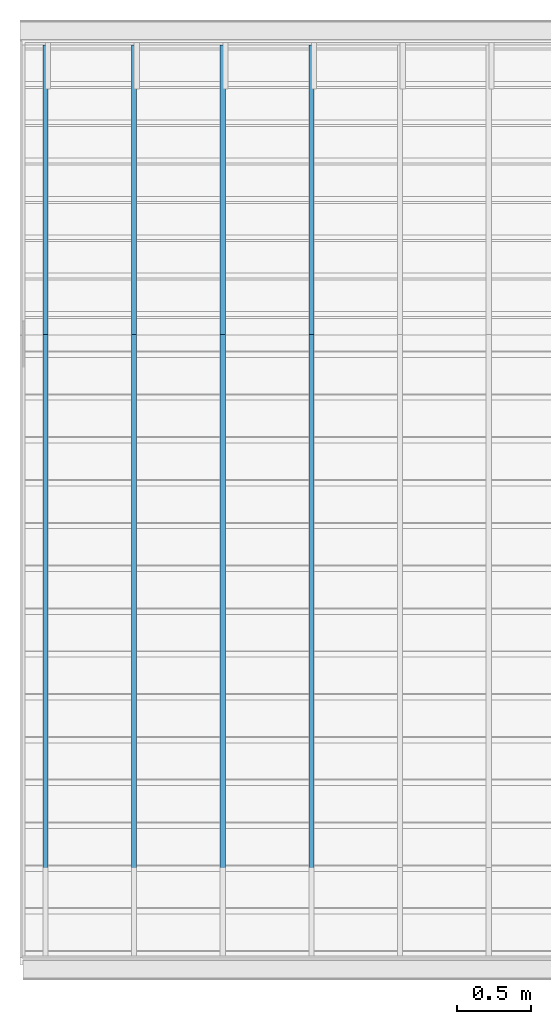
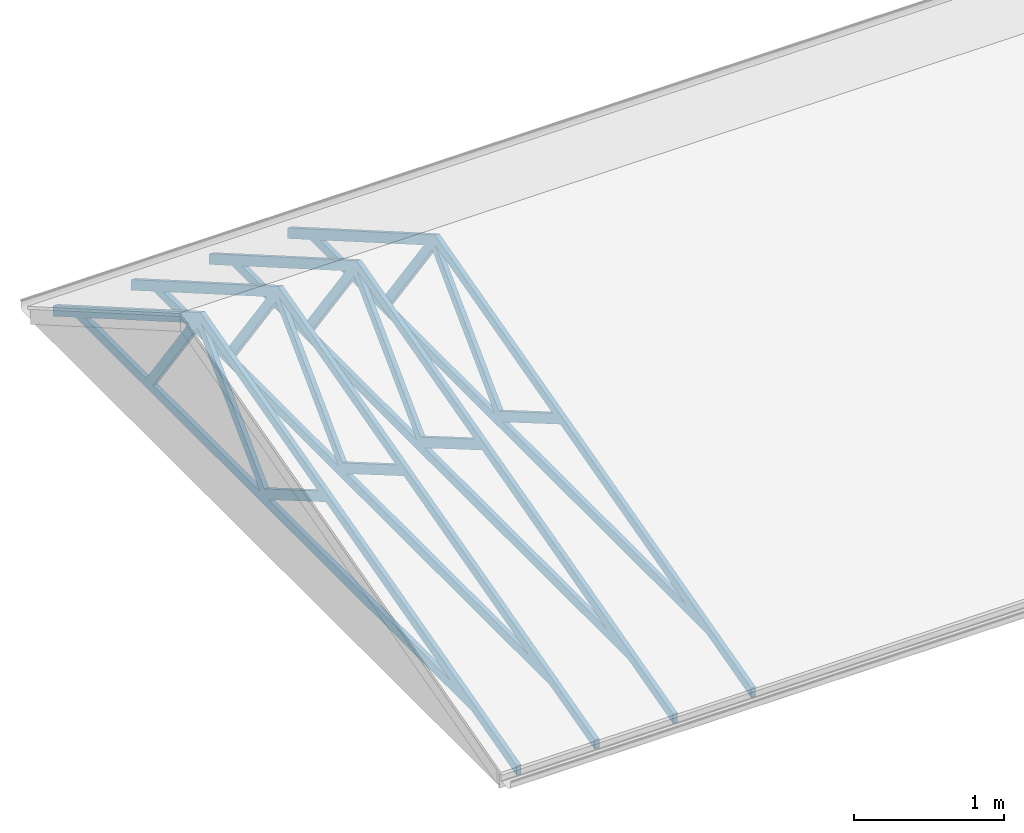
# One storey, part 2 of 12: 4 slabs.
"""IFC2X3 building model written with IfcOpenShell, lengths in millimetres."""

from ifc_helpers import new_model, entity, si_unit, converted_unit, money_unit, direction, frame, origin_with_axes, place, context, subcontext, project, spatial, faceted_brep, material, type_object, element, save


model = new_model("IFC2X3")

# Units and contexts
model_context = context("Model", 3, precision=1e-05, world=origin_with_axes(), true_north=direction((0.0, 1.0)))
body_context = subcontext(model_context, "Body", "Model", "MODEL_VIEW")
ifc_project = project(units=[si_unit("LENGTHUNIT", "METRE", prefix="MILLI"), si_unit("AREAUNIT", "SQUARE_METRE"), si_unit("VOLUMEUNIT", "CUBIC_METRE"), converted_unit("PLANEANGLEUNIT", "DEGREE", entity("IfcPlaneAngleMeasure", 0.0174532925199), si_unit("PLANEANGLEUNIT", "RADIAN"), dimensions=[0, 0, 0, 0, 0, 0, 0]), si_unit("SOLIDANGLEUNIT", "STERADIAN"), money_unit("AUD"), si_unit("TIMEUNIT", "SECOND"), si_unit("MASSUNIT", "GRAM"), si_unit("THERMODYNAMICTEMPERATUREUNIT", "DEGREE_CELSIUS"), si_unit("LUMINOUSINTENSITYUNIT", "LUMEN")], contexts=[model_context])

# Site, building, storey
site_placement = place(None, origin_with_axes())
site = spatial("IfcSite", under=ifc_project, at=site_placement, Name="Lot 1. East Hills", CompositionType="ELEMENT")
building_placement = place(site_placement, origin_with_axes())
building = spatial("IfcBuilding", under=site, at=building_placement, Name="Proposed Units 7 & 8", CompositionType="ELEMENT")
storey_placement = place(building_placement, frame((0.0, 0.0, 8395.0), z_axis=(0.0, 0.0, 1.0), x_axis=(1.0, 0.0, 0.0)))
storey = spatial("IfcBuildingStorey", under=building, at=storey_placement, Name="Roof", CompositionType="ELEMENT", Elevation=8395.0)

# Slabs
ifc_material = material(Name="50 %")
slab_type = type_object("IfcSlabType", Name="Roof Trust large", PredefinedType="NOTDEFINED")
slab_1_placement = place(storey_placement, frame((1955.0, -3.11548540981, 0.0), z_axis=(0.0, 0.0, 1.0), x_axis=(-1.0, 0.0, 0.0)))
element("IfcSlab", 1, at=slab_1_placement, inside=storey, type_object=slab_type, material=ifc_material, Name="TRUST_24 - Roof Trust large - object -", PredefinedType="ROOF", context=body_context, shape_type="Brep", body=[
    faceted_brep([(0.0, 600.020035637, -160.773638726), (0.0, 600.020035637, -160.673638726), (35.0, 600.020035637, -160.673638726), (35.0, 600.020035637, -160.773638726), (0.0, 599.923443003, -160.747757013), (0.0, 0.0966282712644, -0.0259204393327), (0.0, 3.56373446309e-05, -3.87262417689e-05), (0.0, -0.0999643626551, -3.87262417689e-05), (0.0, -5264.89996436, -3.87262399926e-05), (0.0, -5264.99996436, -3.87262399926e-05), (0.0, -5265.08656691, -0.050038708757), (0.0, -5564.91336181, -173.155038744), (0.0, -5564.99996436, -173.205038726), (0.0, -5564.99996436, -173.105038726), (0.0, -5564.99996436, -86.7025387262), (0.0, -5564.99996436, -86.6025387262), (0.0, -5564.91336181, -86.552538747), (0.0, -3606.74656692, 1043.99496129), (0.0, -3606.65996436, 1044.04496127), (0.0, -3606.56337176, 1044.01907945), (0.0, 599.923443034, -83.102056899), (0.0, 600.020035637, -83.1279387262), (0.0, 600.020035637, -83.2279387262), (0.0, -279.899964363, 74.9999612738), (0.0, -279.996556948, 75.0258431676), (0.0, -1937.88337178, 519.25507938), (0.0, -1937.97996436, 519.280961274), (0.0, -1938.06635104, 519.230589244), (0.0, -2699.82357768, 75.0503333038), (0.0, -2699.90996436, 74.9999612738), (0.0, -2699.80996436, 74.9999612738), (0.0, -279.999964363, 74.9999612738), (0.0, -2039.93996436, 546.601961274), (0.0, -2040.03655692, 546.627843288), (0.0, -3595.96337181, 963.539079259), (0.0, -3596.05996436, 963.564961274), (0.0, -3595.98895391, 963.494551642), (0.0, -2755.09097481, 129.711370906), (0.0, -2755.01996436, 129.640961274), (0.0, -2754.93357759, 129.691333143), (0.0, -2040.02635114, 546.551589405), (0.0, -2806.42996436, 74.9999612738), (0.0, -2806.50097476, 75.0703709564), (0.0, -3640.32895396, 901.844551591), (0.0, -3640.39996436, 901.914961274), (0.0, -3640.45835547, 901.833779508), (0.0, -4235.11157326, 75.0811430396), (0.0, -4235.16996436, 74.9999612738), (0.0, -4235.06996436, 74.9999612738), (0.0, -2806.52996436, 74.9999612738), (0.0, -3751.98996436, 873.534961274), (0.0, -3752.07656695, 873.48496135), (0.0, -5135.00936178, 75.0499611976), (0.0, -5135.09596436, 74.9999612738), (0.0, -5134.99596436, 74.9999612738), (0.0, -4326.44996436, 74.9999612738), (0.0, -4326.34996436, 74.9999612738), (0.0, -4326.29157308, 75.0811429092), (0.0, -3752.04835565, 873.453779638), (35.0, 600.020035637, -83.2279387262), (35.0, 600.020035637, -83.1279387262), (35.0, 599.923443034, -83.102056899), (35.0, -3606.56337176, 1044.01907945), (35.0, -3606.65996436, 1044.04496127), (35.0, -3606.74656692, 1043.99496129), (35.0, -5564.91336181, -86.552538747), (35.0, -5564.99996436, -86.6025387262), (35.0, -5564.99996436, -86.7025387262), (35.0, -5564.99996436, -173.105038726), (35.0, -5564.99996436, -173.205038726), (35.0, -5564.91336181, -173.155038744), (35.0, -5265.08656691, -0.050038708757), (35.0, -5264.99996436, -3.87262399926e-05), (35.0, -5264.89996436, -3.87262399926e-05), (35.0, -0.0999643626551, -3.87262417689e-05), (35.0, 3.56373446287e-05, -3.87262417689e-05), (35.0, 0.0966282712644, -0.0259204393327), (35.0, 599.923443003, -160.747757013), (35.0, -279.899964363, 74.9999612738), (35.0, -279.999964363, 74.9999612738), (35.0, -2699.80996436, 74.9999612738), (35.0, -2699.90996436, 74.9999612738), (35.0, -2699.82357768, 75.0503333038), (35.0, -1938.06635104, 519.230589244), (35.0, -1937.97996436, 519.280961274), (35.0, -1937.88337178, 519.25507938), (35.0, -279.996556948, 75.0258431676), (35.0, -2039.93996436, 546.601961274), (35.0, -2040.02635114, 546.551589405), (35.0, -2754.93357759, 129.691333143), (35.0, -2755.01996436, 129.640961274), (35.0, -2755.09097481, 129.711370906), (35.0, -3595.98895391, 963.494551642), (35.0, -3596.05996436, 963.564961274), (35.0, -3595.96337181, 963.539079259), (35.0, -2040.03655692, 546.627843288), (35.0, -2806.42996436, 74.9999612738), (35.0, -2806.52996436, 74.9999612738), (35.0, -4235.06996436, 74.9999612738), (35.0, -4235.16996436, 74.9999612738), (35.0, -4235.11157326, 75.0811430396), (35.0, -3640.45835547, 901.833779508), (35.0, -3640.39996436, 901.914961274), (35.0, -3640.32895396, 901.844551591), (35.0, -2806.50097476, 75.0703709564), (35.0, -3751.98996436, 873.534961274), (35.0, -3752.04835565, 873.453779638), (35.0, -4326.29157308, 75.0811429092), (35.0, -4326.34996436, 74.9999612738), (35.0, -4326.44996436, 74.9999612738), (35.0, -5134.99596436, 74.9999612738), (35.0, -5135.09596436, 74.9999612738), (35.0, -5135.00936178, 75.0499611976), (35.0, -3752.07656695, 873.48496135)], [[[0, 1, 2, 3]], [[0, 4, 5, 6, 7, 8, 9, 10, 11, 12, 13, 14, 15, 16, 17, 18, 19, 20, 21, 22, 1], [23, 24, 25, 26, 27, 28, 29, 30, 31], [32, 33, 34, 35, 36, 37, 38, 39, 40], [41, 42, 43, 44, 45, 46, 47, 48, 49], [50, 51, 52, 53, 54, 55, 56, 57, 58]], [[1, 22, 59, 2]], [[3, 2, 59, 60, 61, 62, 63, 64, 65, 66, 67, 68, 69, 70, 71, 72, 73, 74, 75, 76, 77], [78, 79, 80, 81, 82, 83, 84, 85, 86], [87, 88, 89, 90, 91, 92, 93, 94, 95], [96, 97, 98, 99, 100, 101, 102, 103, 104], [105, 106, 107, 108, 109, 110, 111, 112, 113]], [[4, 0, 3, 77]], [[5, 4, 77, 76]], [[6, 5, 76, 75]], [[7, 6, 75, 74]], [[8, 7, 74, 73]], [[9, 8, 73, 72]], [[10, 9, 72, 71]], [[11, 10, 71, 70]], [[12, 11, 70, 69]], [[13, 12, 69, 68]], [[14, 13, 68, 67]], [[15, 14, 67, 66]], [[16, 15, 66, 65]], [[17, 16, 65, 64]], [[18, 17, 64, 63]], [[19, 18, 63, 62]], [[20, 19, 62, 61]], [[21, 20, 61, 60]], [[22, 21, 60, 59]], [[24, 23, 78, 86]], [[25, 24, 86, 85]], [[26, 25, 85, 84]], [[27, 26, 84, 83]], [[28, 27, 83, 82]], [[29, 28, 82, 81]], [[30, 29, 81, 80]], [[31, 30, 80, 79]], [[23, 31, 79, 78]], [[33, 32, 87, 95]], [[34, 33, 95, 94]], [[35, 34, 94, 93]], [[36, 35, 93, 92]], [[37, 36, 92, 91]], [[38, 37, 91, 90]], [[39, 38, 90, 89]], [[40, 39, 89, 88]], [[32, 40, 88, 87]], [[42, 41, 96, 104]], [[43, 42, 104, 103]], [[44, 43, 103, 102]], [[45, 44, 102, 101]], [[46, 45, 101, 100]], [[47, 46, 100, 99]], [[48, 47, 99, 98]], [[49, 48, 98, 97]], [[41, 49, 97, 96]], [[51, 50, 105, 113]], [[52, 51, 113, 112]], [[53, 52, 112, 111]], [[54, 53, 111, 110]], [[55, 54, 110, 109]], [[56, 55, 109, 108]], [[57, 56, 108, 107]], [[58, 57, 107, 106]], [[50, 58, 106, 105]]]),
])
slab_2_placement = place(storey_placement, frame((1355.0, -3.11548540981, 0.0), z_axis=(0.0, 0.0, 1.0), x_axis=(-1.0, 0.0, 0.0)))
element("IfcSlab", 2, at=slab_2_placement, inside=storey, type_object=slab_type, material=ifc_material, Name="TRUST_25 - Roof Trust large - object -", PredefinedType="ROOF", context=body_context, shape_type="Brep", body=[
    faceted_brep([(0.0, 600.020035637, -160.773638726), (0.0, 600.020035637, -160.673638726), (35.0, 600.020035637, -160.673638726), (35.0, 600.020035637, -160.773638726), (0.0, 599.923443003, -160.747757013), (0.0, 0.0966282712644, -0.0259204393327), (0.0, 3.56373446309e-05, -3.87262417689e-05), (0.0, -0.0999643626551, -3.87262417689e-05), (0.0, -5264.89996436, -3.87262399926e-05), (0.0, -5264.99996436, -3.87262399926e-05), (0.0, -5265.08656691, -0.050038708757), (0.0, -5564.91336181, -173.155038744), (0.0, -5564.99996436, -173.205038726), (0.0, -5564.99996436, -173.105038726), (0.0, -5564.99996436, -86.7025387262), (0.0, -5564.99996436, -86.6025387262), (0.0, -5564.91336181, -86.552538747), (0.0, -3606.74656692, 1043.99496129), (0.0, -3606.65996436, 1044.04496127), (0.0, -3606.56337176, 1044.01907945), (0.0, 599.923443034, -83.102056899), (0.0, 600.020035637, -83.1279387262), (0.0, 600.020035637, -83.2279387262), (0.0, -279.899964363, 74.9999612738), (0.0, -279.996556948, 75.0258431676), (0.0, -1937.88337178, 519.25507938), (0.0, -1937.97996436, 519.280961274), (0.0, -1938.06635104, 519.230589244), (0.0, -2699.82357768, 75.0503333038), (0.0, -2699.90996436, 74.9999612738), (0.0, -2699.80996436, 74.9999612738), (0.0, -279.999964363, 74.9999612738), (0.0, -2039.93996436, 546.601961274), (0.0, -2040.03655692, 546.627843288), (0.0, -3595.96337181, 963.539079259), (0.0, -3596.05996436, 963.564961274), (0.0, -3595.98895391, 963.494551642), (0.0, -2755.09097481, 129.711370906), (0.0, -2755.01996436, 129.640961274), (0.0, -2754.93357759, 129.691333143), (0.0, -2040.02635114, 546.551589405), (0.0, -2806.42996436, 74.9999612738), (0.0, -2806.50097476, 75.0703709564), (0.0, -3640.32895396, 901.844551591), (0.0, -3640.39996436, 901.914961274), (0.0, -3640.45835547, 901.833779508), (0.0, -4235.11157326, 75.0811430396), (0.0, -4235.16996436, 74.9999612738), (0.0, -4235.06996436, 74.9999612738), (0.0, -2806.52996436, 74.9999612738), (0.0, -3751.98996436, 873.534961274), (0.0, -3752.07656695, 873.48496135), (0.0, -5135.00936178, 75.0499611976), (0.0, -5135.09596436, 74.9999612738), (0.0, -5134.99596436, 74.9999612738), (0.0, -4326.44996436, 74.9999612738), (0.0, -4326.34996436, 74.9999612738), (0.0, -4326.29157308, 75.0811429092), (0.0, -3752.04835565, 873.453779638), (35.0, 600.020035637, -83.2279387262), (35.0, 600.020035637, -83.1279387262), (35.0, 599.923443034, -83.102056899), (35.0, -3606.56337176, 1044.01907945), (35.0, -3606.65996436, 1044.04496127), (35.0, -3606.74656692, 1043.99496129), (35.0, -5564.91336181, -86.552538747), (35.0, -5564.99996436, -86.6025387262), (35.0, -5564.99996436, -86.7025387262), (35.0, -5564.99996436, -173.105038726), (35.0, -5564.99996436, -173.205038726), (35.0, -5564.91336181, -173.155038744), (35.0, -5265.08656691, -0.050038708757), (35.0, -5264.99996436, -3.87262399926e-05), (35.0, -5264.89996436, -3.87262399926e-05), (35.0, -0.0999643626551, -3.87262417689e-05), (35.0, 3.56373446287e-05, -3.87262417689e-05), (35.0, 0.0966282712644, -0.0259204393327), (35.0, 599.923443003, -160.747757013), (35.0, -279.899964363, 74.9999612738), (35.0, -279.999964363, 74.9999612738), (35.0, -2699.80996436, 74.9999612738), (35.0, -2699.90996436, 74.9999612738), (35.0, -2699.82357768, 75.0503333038), (35.0, -1938.06635104, 519.230589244), (35.0, -1937.97996436, 519.280961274), (35.0, -1937.88337178, 519.25507938), (35.0, -279.996556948, 75.0258431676), (35.0, -2039.93996436, 546.601961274), (35.0, -2040.02635114, 546.551589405), (35.0, -2754.93357759, 129.691333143), (35.0, -2755.01996436, 129.640961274), (35.0, -2755.09097481, 129.711370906), (35.0, -3595.98895391, 963.494551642), (35.0, -3596.05996436, 963.564961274), (35.0, -3595.96337181, 963.539079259), (35.0, -2040.03655692, 546.627843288), (35.0, -2806.42996436, 74.9999612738), (35.0, -2806.52996436, 74.9999612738), (35.0, -4235.06996436, 74.9999612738), (35.0, -4235.16996436, 74.9999612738), (35.0, -4235.11157326, 75.0811430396), (35.0, -3640.45835547, 901.833779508), (35.0, -3640.39996436, 901.914961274), (35.0, -3640.32895396, 901.844551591), (35.0, -2806.50097476, 75.0703709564), (35.0, -3751.98996436, 873.534961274), (35.0, -3752.04835565, 873.453779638), (35.0, -4326.29157308, 75.0811429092), (35.0, -4326.34996436, 74.9999612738), (35.0, -4326.44996436, 74.9999612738), (35.0, -5134.99596436, 74.9999612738), (35.0, -5135.09596436, 74.9999612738), (35.0, -5135.00936178, 75.0499611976), (35.0, -3752.07656695, 873.48496135)], [[[0, 1, 2, 3]], [[0, 4, 5, 6, 7, 8, 9, 10, 11, 12, 13, 14, 15, 16, 17, 18, 19, 20, 21, 22, 1], [23, 24, 25, 26, 27, 28, 29, 30, 31], [32, 33, 34, 35, 36, 37, 38, 39, 40], [41, 42, 43, 44, 45, 46, 47, 48, 49], [50, 51, 52, 53, 54, 55, 56, 57, 58]], [[1, 22, 59, 2]], [[3, 2, 59, 60, 61, 62, 63, 64, 65, 66, 67, 68, 69, 70, 71, 72, 73, 74, 75, 76, 77], [78, 79, 80, 81, 82, 83, 84, 85, 86], [87, 88, 89, 90, 91, 92, 93, 94, 95], [96, 97, 98, 99, 100, 101, 102, 103, 104], [105, 106, 107, 108, 109, 110, 111, 112, 113]], [[4, 0, 3, 77]], [[5, 4, 77, 76]], [[6, 5, 76, 75]], [[7, 6, 75, 74]], [[8, 7, 74, 73]], [[9, 8, 73, 72]], [[10, 9, 72, 71]], [[11, 10, 71, 70]], [[12, 11, 70, 69]], [[13, 12, 69, 68]], [[14, 13, 68, 67]], [[15, 14, 67, 66]], [[16, 15, 66, 65]], [[17, 16, 65, 64]], [[18, 17, 64, 63]], [[19, 18, 63, 62]], [[20, 19, 62, 61]], [[21, 20, 61, 60]], [[22, 21, 60, 59]], [[24, 23, 78, 86]], [[25, 24, 86, 85]], [[26, 25, 85, 84]], [[27, 26, 84, 83]], [[28, 27, 83, 82]], [[29, 28, 82, 81]], [[30, 29, 81, 80]], [[31, 30, 80, 79]], [[23, 31, 79, 78]], [[33, 32, 87, 95]], [[34, 33, 95, 94]], [[35, 34, 94, 93]], [[36, 35, 93, 92]], [[37, 36, 92, 91]], [[38, 37, 91, 90]], [[39, 38, 90, 89]], [[40, 39, 89, 88]], [[32, 40, 88, 87]], [[42, 41, 96, 104]], [[43, 42, 104, 103]], [[44, 43, 103, 102]], [[45, 44, 102, 101]], [[46, 45, 101, 100]], [[47, 46, 100, 99]], [[48, 47, 99, 98]], [[49, 48, 98, 97]], [[41, 49, 97, 96]], [[51, 50, 105, 113]], [[52, 51, 113, 112]], [[53, 52, 112, 111]], [[54, 53, 111, 110]], [[55, 54, 110, 109]], [[56, 55, 109, 108]], [[57, 56, 108, 107]], [[58, 57, 107, 106]], [[50, 58, 106, 105]]]),
])
slab_3_placement = place(storey_placement, frame((155.0, -3.11548540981, 0.0), z_axis=(0.0, 0.0, 1.0), x_axis=(-1.0, 0.0, 0.0)))
element("IfcSlab", 3, at=slab_3_placement, inside=storey, type_object=slab_type, material=ifc_material, Name="TRUST_26 - Roof Trust large - object -", PredefinedType="ROOF", context=body_context, shape_type="Brep", body=[
    faceted_brep([(0.0, 600.020035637, -160.773638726), (0.0, 600.020035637, -160.673638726), (35.0, 600.020035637, -160.673638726), (35.0, 600.020035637, -160.773638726), (0.0, 599.923443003, -160.747757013), (0.0, 0.0966282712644, -0.0259204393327), (0.0, 3.56373446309e-05, -3.87262417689e-05), (0.0, -0.0999643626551, -3.87262417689e-05), (0.0, -5264.89996436, -3.87262399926e-05), (0.0, -5264.99996436, -3.87262399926e-05), (0.0, -5265.08656691, -0.050038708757), (0.0, -5564.91336181, -173.155038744), (0.0, -5564.99996436, -173.205038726), (0.0, -5564.99996436, -173.105038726), (0.0, -5564.99996436, -86.7025387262), (0.0, -5564.99996436, -86.6025387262), (0.0, -5564.91336181, -86.552538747), (0.0, -3606.74656692, 1043.99496129), (0.0, -3606.65996436, 1044.04496127), (0.0, -3606.56337176, 1044.01907945), (0.0, 599.923443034, -83.102056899), (0.0, 600.020035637, -83.1279387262), (0.0, 600.020035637, -83.2279387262), (0.0, -279.899964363, 74.9999612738), (0.0, -279.996556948, 75.0258431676), (0.0, -1937.88337178, 519.25507938), (0.0, -1937.97996436, 519.280961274), (0.0, -1938.06635104, 519.230589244), (0.0, -2699.82357768, 75.0503333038), (0.0, -2699.90996436, 74.9999612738), (0.0, -2699.80996436, 74.9999612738), (0.0, -279.999964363, 74.9999612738), (0.0, -2039.93996436, 546.601961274), (0.0, -2040.03655692, 546.627843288), (0.0, -3595.96337181, 963.539079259), (0.0, -3596.05996436, 963.564961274), (0.0, -3595.98895391, 963.494551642), (0.0, -2755.09097481, 129.711370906), (0.0, -2755.01996436, 129.640961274), (0.0, -2754.93357759, 129.691333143), (0.0, -2040.02635114, 546.551589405), (0.0, -2806.42996436, 74.9999612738), (0.0, -2806.50097476, 75.0703709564), (0.0, -3640.32895396, 901.844551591), (0.0, -3640.39996436, 901.914961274), (0.0, -3640.45835547, 901.833779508), (0.0, -4235.11157326, 75.0811430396), (0.0, -4235.16996436, 74.9999612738), (0.0, -4235.06996436, 74.9999612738), (0.0, -2806.52996436, 74.9999612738), (0.0, -3751.98996436, 873.534961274), (0.0, -3752.07656695, 873.48496135), (0.0, -5135.00936178, 75.0499611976), (0.0, -5135.09596436, 74.9999612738), (0.0, -5134.99596436, 74.9999612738), (0.0, -4326.44996436, 74.9999612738), (0.0, -4326.34996436, 74.9999612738), (0.0, -4326.29157308, 75.0811429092), (0.0, -3752.04835565, 873.453779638), (35.0, 600.020035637, -83.2279387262), (35.0, 600.020035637, -83.1279387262), (35.0, 599.923443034, -83.102056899), (35.0, -3606.56337176, 1044.01907945), (35.0, -3606.65996436, 1044.04496127), (35.0, -3606.74656692, 1043.99496129), (35.0, -5564.91336181, -86.552538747), (35.0, -5564.99996436, -86.6025387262), (35.0, -5564.99996436, -86.7025387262), (35.0, -5564.99996436, -173.105038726), (35.0, -5564.99996436, -173.205038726), (35.0, -5564.91336181, -173.155038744), (35.0, -5265.08656691, -0.050038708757), (35.0, -5264.99996436, -3.87262399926e-05), (35.0, -5264.89996436, -3.87262399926e-05), (35.0, -0.0999643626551, -3.87262417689e-05), (35.0, 3.56373446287e-05, -3.87262417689e-05), (35.0, 0.0966282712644, -0.0259204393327), (35.0, 599.923443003, -160.747757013), (35.0, -279.899964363, 74.9999612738), (35.0, -279.999964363, 74.9999612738), (35.0, -2699.80996436, 74.9999612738), (35.0, -2699.90996436, 74.9999612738), (35.0, -2699.82357768, 75.0503333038), (35.0, -1938.06635104, 519.230589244), (35.0, -1937.97996436, 519.280961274), (35.0, -1937.88337178, 519.25507938), (35.0, -279.996556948, 75.0258431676), (35.0, -2039.93996436, 546.601961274), (35.0, -2040.02635114, 546.551589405), (35.0, -2754.93357759, 129.691333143), (35.0, -2755.01996436, 129.640961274), (35.0, -2755.09097481, 129.711370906), (35.0, -3595.98895391, 963.494551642), (35.0, -3596.05996436, 963.564961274), (35.0, -3595.96337181, 963.539079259), (35.0, -2040.03655692, 546.627843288), (35.0, -2806.42996436, 74.9999612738), (35.0, -2806.52996436, 74.9999612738), (35.0, -4235.06996436, 74.9999612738), (35.0, -4235.16996436, 74.9999612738), (35.0, -4235.11157326, 75.0811430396), (35.0, -3640.45835547, 901.833779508), (35.0, -3640.39996436, 901.914961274), (35.0, -3640.32895396, 901.844551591), (35.0, -2806.50097476, 75.0703709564), (35.0, -3751.98996436, 873.534961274), (35.0, -3752.04835565, 873.453779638), (35.0, -4326.29157308, 75.0811429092), (35.0, -4326.34996436, 74.9999612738), (35.0, -4326.44996436, 74.9999612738), (35.0, -5134.99596436, 74.9999612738), (35.0, -5135.09596436, 74.9999612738), (35.0, -5135.00936178, 75.0499611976), (35.0, -3752.07656695, 873.48496135)], [[[0, 1, 2, 3]], [[0, 4, 5, 6, 7, 8, 9, 10, 11, 12, 13, 14, 15, 16, 17, 18, 19, 20, 21, 22, 1], [23, 24, 25, 26, 27, 28, 29, 30, 31], [32, 33, 34, 35, 36, 37, 38, 39, 40], [41, 42, 43, 44, 45, 46, 47, 48, 49], [50, 51, 52, 53, 54, 55, 56, 57, 58]], [[1, 22, 59, 2]], [[3, 2, 59, 60, 61, 62, 63, 64, 65, 66, 67, 68, 69, 70, 71, 72, 73, 74, 75, 76, 77], [78, 79, 80, 81, 82, 83, 84, 85, 86], [87, 88, 89, 90, 91, 92, 93, 94, 95], [96, 97, 98, 99, 100, 101, 102, 103, 104], [105, 106, 107, 108, 109, 110, 111, 112, 113]], [[4, 0, 3, 77]], [[5, 4, 77, 76]], [[6, 5, 76, 75]], [[7, 6, 75, 74]], [[8, 7, 74, 73]], [[9, 8, 73, 72]], [[10, 9, 72, 71]], [[11, 10, 71, 70]], [[12, 11, 70, 69]], [[13, 12, 69, 68]], [[14, 13, 68, 67]], [[15, 14, 67, 66]], [[16, 15, 66, 65]], [[17, 16, 65, 64]], [[18, 17, 64, 63]], [[19, 18, 63, 62]], [[20, 19, 62, 61]], [[21, 20, 61, 60]], [[22, 21, 60, 59]], [[24, 23, 78, 86]], [[25, 24, 86, 85]], [[26, 25, 85, 84]], [[27, 26, 84, 83]], [[28, 27, 83, 82]], [[29, 28, 82, 81]], [[30, 29, 81, 80]], [[31, 30, 80, 79]], [[23, 31, 79, 78]], [[33, 32, 87, 95]], [[34, 33, 95, 94]], [[35, 34, 94, 93]], [[36, 35, 93, 92]], [[37, 36, 92, 91]], [[38, 37, 91, 90]], [[39, 38, 90, 89]], [[40, 39, 89, 88]], [[32, 40, 88, 87]], [[42, 41, 96, 104]], [[43, 42, 104, 103]], [[44, 43, 103, 102]], [[45, 44, 102, 101]], [[46, 45, 101, 100]], [[47, 46, 100, 99]], [[48, 47, 99, 98]], [[49, 48, 98, 97]], [[41, 49, 97, 96]], [[51, 50, 105, 113]], [[52, 51, 113, 112]], [[53, 52, 112, 111]], [[54, 53, 111, 110]], [[55, 54, 110, 109]], [[56, 55, 109, 108]], [[57, 56, 108, 107]], [[58, 57, 107, 106]], [[50, 58, 106, 105]]]),
])
slab_4_placement = place(storey_placement, frame((755.0, -1.9999373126, 0.0), z_axis=(0.0, 0.0, 1.0), x_axis=(-1.0, 0.0, 0.0)))
element("IfcSlab", 4, at=slab_4_placement, inside=storey, type_object=slab_type, material=ifc_material, Name="TRUST_27 - Roof Trust large - object -", PredefinedType="ROOF", context=body_context, shape_type="Brep", body=[
    faceted_brep([(0.0, 600.020035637, -160.773638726), (0.0, 600.020035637, -160.673638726), (35.0, 600.020035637, -160.673638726), (35.0, 600.020035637, -160.773638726), (0.0, 599.923443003, -160.747757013), (0.0, 0.0966282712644, -0.0259204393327), (0.0, 3.56373446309e-05, -3.87262417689e-05), (0.0, -0.0999643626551, -3.87262417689e-05), (0.0, -5264.89996436, -3.87262399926e-05), (0.0, -5264.99996436, -3.87262399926e-05), (0.0, -5265.08656691, -0.050038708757), (0.0, -5564.91336181, -173.155038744), (0.0, -5564.99996436, -173.205038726), (0.0, -5564.99996436, -173.105038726), (0.0, -5564.99996436, -86.7025387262), (0.0, -5564.99996436, -86.6025387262), (0.0, -5564.91336181, -86.552538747), (0.0, -3606.74656692, 1043.99496129), (0.0, -3606.65996436, 1044.04496127), (0.0, -3606.56337176, 1044.01907945), (0.0, 599.923443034, -83.102056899), (0.0, 600.020035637, -83.1279387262), (0.0, 600.020035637, -83.2279387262), (0.0, -279.899964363, 74.9999612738), (0.0, -279.996556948, 75.0258431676), (0.0, -1937.88337178, 519.25507938), (0.0, -1937.97996436, 519.280961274), (0.0, -1938.06635104, 519.230589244), (0.0, -2699.82357768, 75.0503333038), (0.0, -2699.90996436, 74.9999612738), (0.0, -2699.80996436, 74.9999612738), (0.0, -279.999964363, 74.9999612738), (0.0, -2039.93996436, 546.601961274), (0.0, -2040.03655692, 546.627843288), (0.0, -3595.96337181, 963.539079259), (0.0, -3596.05996436, 963.564961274), (0.0, -3595.98895391, 963.494551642), (0.0, -2755.09097481, 129.711370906), (0.0, -2755.01996436, 129.640961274), (0.0, -2754.93357759, 129.691333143), (0.0, -2040.02635114, 546.551589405), (0.0, -2806.42996436, 74.9999612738), (0.0, -2806.50097476, 75.0703709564), (0.0, -3640.32895396, 901.844551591), (0.0, -3640.39996436, 901.914961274), (0.0, -3640.45835547, 901.833779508), (0.0, -4235.11157326, 75.0811430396), (0.0, -4235.16996436, 74.9999612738), (0.0, -4235.06996436, 74.9999612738), (0.0, -2806.52996436, 74.9999612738), (0.0, -3751.98996436, 873.534961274), (0.0, -3752.07656695, 873.48496135), (0.0, -5135.00936178, 75.0499611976), (0.0, -5135.09596436, 74.9999612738), (0.0, -5134.99596436, 74.9999612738), (0.0, -4326.44996436, 74.9999612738), (0.0, -4326.34996436, 74.9999612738), (0.0, -4326.29157308, 75.0811429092), (0.0, -3752.04835565, 873.453779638), (35.0, 600.020035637, -83.2279387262), (35.0, 600.020035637, -83.1279387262), (35.0, 599.923443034, -83.102056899), (35.0, -3606.56337176, 1044.01907945), (35.0, -3606.65996436, 1044.04496127), (35.0, -3606.74656692, 1043.99496129), (35.0, -5564.91336181, -86.552538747), (35.0, -5564.99996436, -86.6025387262), (35.0, -5564.99996436, -86.7025387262), (35.0, -5564.99996436, -173.105038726), (35.0, -5564.99996436, -173.205038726), (35.0, -5564.91336181, -173.155038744), (35.0, -5265.08656691, -0.050038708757), (35.0, -5264.99996436, -3.87262399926e-05), (35.0, -5264.89996436, -3.87262399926e-05), (35.0, -0.0999643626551, -3.87262417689e-05), (35.0, 3.56373446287e-05, -3.87262417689e-05), (35.0, 0.0966282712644, -0.0259204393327), (35.0, 599.923443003, -160.747757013), (35.0, -279.899964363, 74.9999612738), (35.0, -279.999964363, 74.9999612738), (35.0, -2699.80996436, 74.9999612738), (35.0, -2699.90996436, 74.9999612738), (35.0, -2699.82357768, 75.0503333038), (35.0, -1938.06635104, 519.230589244), (35.0, -1937.97996436, 519.280961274), (35.0, -1937.88337178, 519.25507938), (35.0, -279.996556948, 75.0258431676), (35.0, -2039.93996436, 546.601961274), (35.0, -2040.02635114, 546.551589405), (35.0, -2754.93357759, 129.691333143), (35.0, -2755.01996436, 129.640961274), (35.0, -2755.09097481, 129.711370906), (35.0, -3595.98895391, 963.494551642), (35.0, -3596.05996436, 963.564961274), (35.0, -3595.96337181, 963.539079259), (35.0, -2040.03655692, 546.627843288), (35.0, -2806.42996436, 74.9999612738), (35.0, -2806.52996436, 74.9999612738), (35.0, -4235.06996436, 74.9999612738), (35.0, -4235.16996436, 74.9999612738), (35.0, -4235.11157326, 75.0811430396), (35.0, -3640.45835547, 901.833779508), (35.0, -3640.39996436, 901.914961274), (35.0, -3640.32895396, 901.844551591), (35.0, -2806.50097476, 75.0703709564), (35.0, -3751.98996436, 873.534961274), (35.0, -3752.04835565, 873.453779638), (35.0, -4326.29157308, 75.0811429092), (35.0, -4326.34996436, 74.9999612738), (35.0, -4326.44996436, 74.9999612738), (35.0, -5134.99596436, 74.9999612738), (35.0, -5135.09596436, 74.9999612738), (35.0, -5135.00936178, 75.0499611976), (35.0, -3752.07656695, 873.48496135)], [[[0, 1, 2, 3]], [[0, 4, 5, 6, 7, 8, 9, 10, 11, 12, 13, 14, 15, 16, 17, 18, 19, 20, 21, 22, 1], [23, 24, 25, 26, 27, 28, 29, 30, 31], [32, 33, 34, 35, 36, 37, 38, 39, 40], [41, 42, 43, 44, 45, 46, 47, 48, 49], [50, 51, 52, 53, 54, 55, 56, 57, 58]], [[1, 22, 59, 2]], [[3, 2, 59, 60, 61, 62, 63, 64, 65, 66, 67, 68, 69, 70, 71, 72, 73, 74, 75, 76, 77], [78, 79, 80, 81, 82, 83, 84, 85, 86], [87, 88, 89, 90, 91, 92, 93, 94, 95], [96, 97, 98, 99, 100, 101, 102, 103, 104], [105, 106, 107, 108, 109, 110, 111, 112, 113]], [[4, 0, 3, 77]], [[5, 4, 77, 76]], [[6, 5, 76, 75]], [[7, 6, 75, 74]], [[8, 7, 74, 73]], [[9, 8, 73, 72]], [[10, 9, 72, 71]], [[11, 10, 71, 70]], [[12, 11, 70, 69]], [[13, 12, 69, 68]], [[14, 13, 68, 67]], [[15, 14, 67, 66]], [[16, 15, 66, 65]], [[17, 16, 65, 64]], [[18, 17, 64, 63]], [[19, 18, 63, 62]], [[20, 19, 62, 61]], [[21, 20, 61, 60]], [[22, 21, 60, 59]], [[24, 23, 78, 86]], [[25, 24, 86, 85]], [[26, 25, 85, 84]], [[27, 26, 84, 83]], [[28, 27, 83, 82]], [[29, 28, 82, 81]], [[30, 29, 81, 80]], [[31, 30, 80, 79]], [[23, 31, 79, 78]], [[33, 32, 87, 95]], [[34, 33, 95, 94]], [[35, 34, 94, 93]], [[36, 35, 93, 92]], [[37, 36, 92, 91]], [[38, 37, 91, 90]], [[39, 38, 90, 89]], [[40, 39, 89, 88]], [[32, 40, 88, 87]], [[42, 41, 96, 104]], [[43, 42, 104, 103]], [[44, 43, 103, 102]], [[45, 44, 102, 101]], [[46, 45, 101, 100]], [[47, 46, 100, 99]], [[48, 47, 99, 98]], [[49, 48, 98, 97]], [[41, 49, 97, 96]], [[51, 50, 105, 113]], [[52, 51, 113, 112]], [[53, 52, 112, 111]], [[54, 53, 111, 110]], [[55, 54, 110, 109]], [[56, 55, 109, 108]], [[57, 56, 108, 107]], [[58, 57, 107, 106]], [[50, 58, 106, 105]]]),
])

save(model, "model.ifc")
